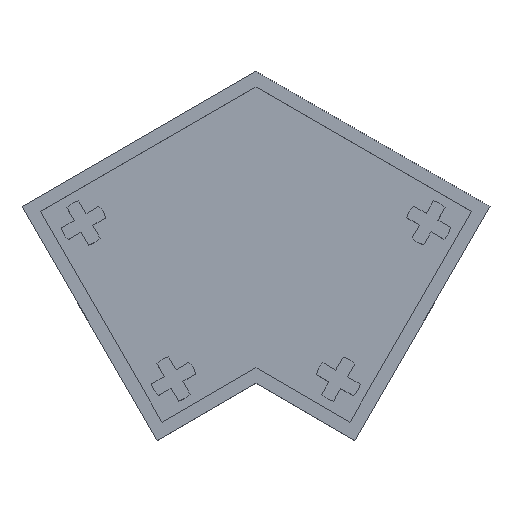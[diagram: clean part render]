
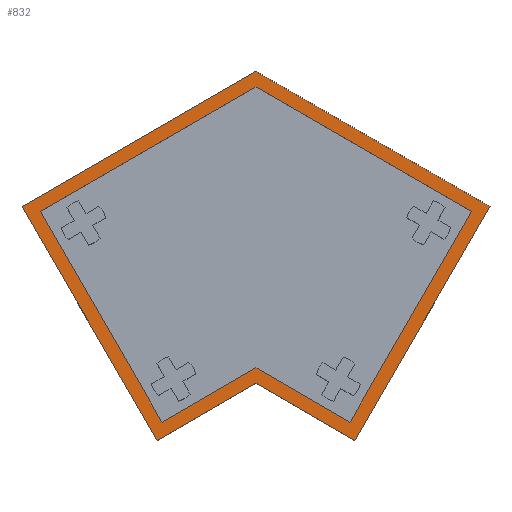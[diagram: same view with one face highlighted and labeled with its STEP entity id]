
A CAD part, top view. The second image highlights one B-rep face of the part: STEP entity #832.
In plain terms, the highlighted planar face has unit normal (0, 0, 1).
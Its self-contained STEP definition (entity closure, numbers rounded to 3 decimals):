
#6 = EDGE_CURVE ( 'NONE', #1548, #1238, #1928, .T. ) ;
#22 = EDGE_LOOP ( 'NONE', ( #179, #839, #918, #1904, #152, #1721 ) ) ;
#37 = EDGE_CURVE ( 'NONE', #645, #1512, #1910, .T. ) ;
#74 = EDGE_LOOP ( 'NONE', ( #2116, #240, #1358, #481, #823, #1857 ) ) ;
#83 = DIRECTION ( 'NONE',  ( 0.5, 0.866, 0. ) ) ;
#100 = CARTESIAN_POINT ( 'NONE',  ( -25.981, 19.641, 5. ) ) ;
#112 = CARTESIAN_POINT ( 'NONE',  ( 0., 0., 5. ) ) ;
#113 = LINE ( 'NONE', #453, #2002 ) ;
#116 = DIRECTION ( 'NONE',  ( 0.866, 0.5, 0. ) ) ;
#122 = DIRECTION ( 'NONE',  ( 0.5, -0.866, 0. ) ) ;
#129 = DIRECTION ( 'NONE',  ( 0.5, -0.866, 0. ) ) ;
#131 = CARTESIAN_POINT ( 'NONE',  ( 10.432, -4.291, 5. ) ) ;
#152 = ORIENTED_EDGE ( 'NONE', *, *, #1353, .F. ) ;
#155 = VECTOR ( 'NONE', #487, 1000. ) ;
#158 = EDGE_CURVE ( 'NONE', #1512, #1034, #703, .T. ) ;
#179 = ORIENTED_EDGE ( 'NONE', *, *, #6, .F. ) ;
#199 = VERTEX_POINT ( 'NONE', #2157 ) ;
#240 = ORIENTED_EDGE ( 'NONE', *, *, #814, .T. ) ;
#258 = VECTOR ( 'NONE', #83, 1000. ) ;
#259 = CARTESIAN_POINT ( 'NONE',  ( -10.432, -4.291, 5. ) ) ;
#339 = VERTEX_POINT ( 'NONE', #1916 ) ;
#411 = CARTESIAN_POINT ( 'NONE',  ( 10.981, -6.34, 5. ) ) ;
#428 = DIRECTION ( 'NONE',  ( 0.5, 0.866, 0. ) ) ;
#453 = CARTESIAN_POINT ( 'NONE',  ( -23.932, 19.092, 5. ) ) ;
#473 = VECTOR ( 'NONE', #129, 1000. ) ;
#481 = ORIENTED_EDGE ( 'NONE', *, *, #937, .T. ) ;
#487 = DIRECTION ( 'NONE',  ( -0.866, -0.5, 0. ) ) ;
#490 = VECTOR ( 'NONE', #1972, 1000. ) ;
#491 = DIRECTION ( 'NONE',  ( -0.866, -0.5, 0. ) ) ;
#510 = CARTESIAN_POINT ( 'NONE',  ( 23.932, 19.092, 5. ) ) ;
#577 = VECTOR ( 'NONE', #1293, 1000. ) ;
#612 = EDGE_CURVE ( 'NONE', #199, #1012, #670, .T. ) ;
#624 = PLANE ( 'NONE',  #1067 ) ;
#645 = VERTEX_POINT ( 'NONE', #1319 ) ;
#652 = EDGE_CURVE ( 'NONE', #1034, #958, #1979, .T. ) ;
#670 = LINE ( 'NONE', #510, #2072 ) ;
#703 = LINE ( 'NONE', #2028, #1132 ) ;
#814 = EDGE_CURVE ( 'NONE', #958, #339, #2108, .T. ) ;
#819 = LINE ( 'NONE', #1807, #838 ) ;
#823 = ORIENTED_EDGE ( 'NONE', *, *, #37, .T. ) ;
#827 = CARTESIAN_POINT ( 'NONE',  ( 25.981, 19.641, 5. ) ) ;
#832 = ADVANCED_FACE ( 'NONE', ( #945, #1937 ), #624, .T. ) ;
#838 = VECTOR ( 'NONE', #491, 1000. ) ;
#839 = ORIENTED_EDGE ( 'NONE', *, *, #1231, .F. ) ;
#918 = ORIENTED_EDGE ( 'NONE', *, *, #1643, .F. ) ;
#937 = EDGE_CURVE ( 'NONE', #1668, #645, #1599, .T. ) ;
#941 = CARTESIAN_POINT ( 'NONE',  ( -23.932, 19.092, 5. ) ) ;
#945 = FACE_BOUND ( 'NONE', #22, .T. ) ;
#958 = VERTEX_POINT ( 'NONE', #100 ) ;
#967 = LINE ( 'NONE', #131, #1448 ) ;
#1012 = VERTEX_POINT ( 'NONE', #1359 ) ;
#1023 = CARTESIAN_POINT ( 'NONE',  ( 0., 34.641, 5. ) ) ;
#1034 = VERTEX_POINT ( 'NONE', #1023 ) ;
#1067 = AXIS2_PLACEMENT_3D ( 'NONE', #112, #1611, #1468 ) ;
#1132 = VECTOR ( 'NONE', #1688, 1000. ) ;
#1155 = CARTESIAN_POINT ( 'NONE',  ( 0., 34.641, 5. ) ) ;
#1157 = LINE ( 'NONE', #1463, #490 ) ;
#1161 = EDGE_CURVE ( 'NONE', #339, #1668, #1578, .T. ) ;
#1231 = EDGE_CURVE ( 'NONE', #1536, #1548, #113, .T. ) ;
#1238 = VERTEX_POINT ( 'NONE', #1624 ) ;
#1293 = DIRECTION ( 'NONE',  ( 0.866, -0.5, 0. ) ) ;
#1319 = CARTESIAN_POINT ( 'NONE',  ( 10.981, -6.34, 5. ) ) ;
#1353 = EDGE_CURVE ( 'NONE', #1794, #199, #967, .T. ) ;
#1358 = ORIENTED_EDGE ( 'NONE', *, *, #1161, .T. ) ;
#1359 = CARTESIAN_POINT ( 'NONE',  ( 0., 32.909, 5. ) ) ;
#1369 = CARTESIAN_POINT ( 'NONE',  ( 10.432, -4.291, 5. ) ) ;
#1394 = DIRECTION ( 'NONE',  ( 0.866, 0.5, 0. ) ) ;
#1448 = VECTOR ( 'NONE', #428, 1000. ) ;
#1463 = CARTESIAN_POINT ( 'NONE',  ( 0., 1.732, 5. ) ) ;
#1468 = DIRECTION ( 'NONE',  ( 1., 0., 0. ) ) ;
#1487 = CARTESIAN_POINT ( 'NONE',  ( 0., 0., 5. ) ) ;
#1512 = VERTEX_POINT ( 'NONE', #827 ) ;
#1519 = VECTOR ( 'NONE', #116, 1000. ) ;
#1536 = VERTEX_POINT ( 'NONE', #941 ) ;
#1544 = CARTESIAN_POINT ( 'NONE',  ( -10.981, -6.34, 5. ) ) ;
#1548 = VERTEX_POINT ( 'NONE', #259 ) ;
#1578 = LINE ( 'NONE', #1544, #1938 ) ;
#1599 = LINE ( 'NONE', #1947, #577 ) ;
#1611 = DIRECTION ( 'NONE',  ( 0., 0., 1. ) ) ;
#1624 = CARTESIAN_POINT ( 'NONE',  ( 0., 1.732, 5. ) ) ;
#1643 = EDGE_CURVE ( 'NONE', #1012, #1536, #819, .T. ) ;
#1668 = VERTEX_POINT ( 'NONE', #1487 ) ;
#1688 = DIRECTION ( 'NONE',  ( -0.866, 0.5, 0. ) ) ;
#1721 = ORIENTED_EDGE ( 'NONE', *, *, #2102, .F. ) ;
#1773 = CARTESIAN_POINT ( 'NONE',  ( -10.432, -4.291, 5. ) ) ;
#1794 = VERTEX_POINT ( 'NONE', #1369 ) ;
#1807 = CARTESIAN_POINT ( 'NONE',  ( 0., 32.909, 5. ) ) ;
#1811 = CARTESIAN_POINT ( 'NONE',  ( -25.981, 19.641, 5. ) ) ;
#1856 = DIRECTION ( 'NONE',  ( -0.866, 0.5, 0. ) ) ;
#1857 = ORIENTED_EDGE ( 'NONE', *, *, #158, .T. ) ;
#1904 = ORIENTED_EDGE ( 'NONE', *, *, #612, .F. ) ;
#1910 = LINE ( 'NONE', #411, #258 ) ;
#1916 = CARTESIAN_POINT ( 'NONE',  ( -10.981, -6.34, 5. ) ) ;
#1928 = LINE ( 'NONE', #1773, #1519 ) ;
#1937 = FACE_OUTER_BOUND ( 'NONE', #74, .T. ) ;
#1938 = VECTOR ( 'NONE', #1394, 1000. ) ;
#1947 = CARTESIAN_POINT ( 'NONE',  ( 0., 0., 5. ) ) ;
#1972 = DIRECTION ( 'NONE',  ( 0.866, -0.5, 0. ) ) ;
#1979 = LINE ( 'NONE', #1155, #155 ) ;
#2002 = VECTOR ( 'NONE', #122, 1000. ) ;
#2028 = CARTESIAN_POINT ( 'NONE',  ( 25.981, 19.641, 5. ) ) ;
#2072 = VECTOR ( 'NONE', #1856, 1000. ) ;
#2102 = EDGE_CURVE ( 'NONE', #1238, #1794, #1157, .T. ) ;
#2108 = LINE ( 'NONE', #1811, #473 ) ;
#2116 = ORIENTED_EDGE ( 'NONE', *, *, #652, .T. ) ;
#2157 = CARTESIAN_POINT ( 'NONE',  ( 23.932, 19.092, 5. ) ) ;
